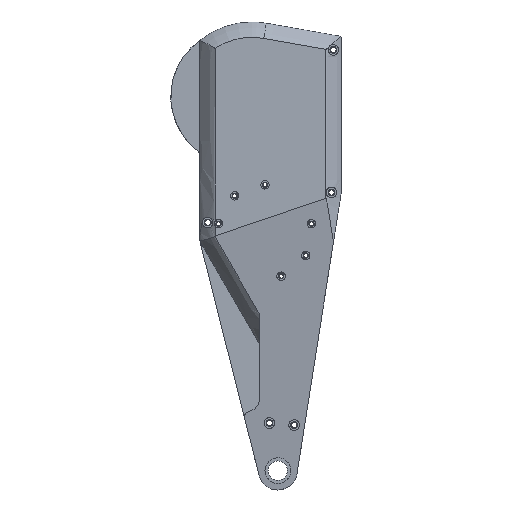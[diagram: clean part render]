
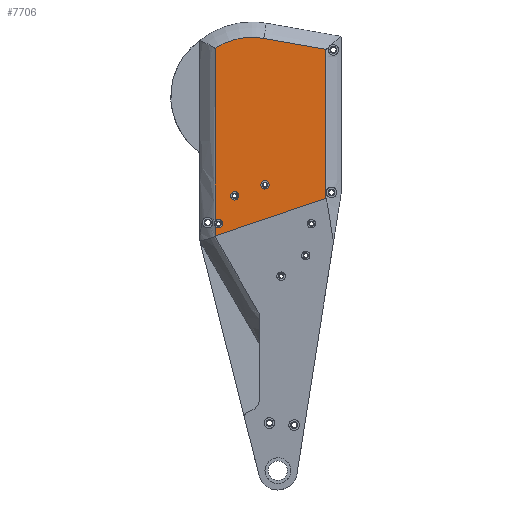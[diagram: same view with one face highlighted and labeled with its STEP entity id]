
A CAD part, left-side view. The second image highlights one B-rep face of the part: STEP entity #7706.
In plain terms, the highlighted planar face has unit normal (-1, 0, 0).
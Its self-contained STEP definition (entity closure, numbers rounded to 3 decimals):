
#549=CARTESIAN_POINT('',(-178.,-50.121,
-527.022));
#551=DIRECTION('',(0.,0.,1.));
#552=VECTOR('',#551,115.554);
#553=CARTESIAN_POINT('',(-178.,-50.121,
-527.022));
#554=LINE('',#553,#552);
#657=CARTESIAN_POINT('',(-178.,35.53,-410.621));
#729=DIRECTION('',(0.,0.,-1.));
#730=VECTOR('',#729,134.07);
#731=CARTESIAN_POINT('',(-178.,35.53,-410.621));
#732=LINE('',#731,#730);
#750=CARTESIAN_POINT('',(-178.,35.53,-548.632));
#752=DIRECTION('',(0.,0.,-1.));
#753=VECTOR('',#752,7.37);
#754=CARTESIAN_POINT('',(-178.,35.53,-548.632));
#755=LINE('',#754,#753);
#768=CARTESIAN_POINT('',(-178.,32.945,-546.662));
#769=DIRECTION('',(-1.,0.,0.));
#770=DIRECTION('',(0.,0.,-1.));
#771=AXIS2_PLACEMENT_3D('',#768,#769,#770);
#773=CARTESIAN_POINT('',(-178.,32.945,-546.662));
#774=DIRECTION('',(-1.,0.,0.));
#775=DIRECTION('',(0.,0.,1.));
#776=AXIS2_PLACEMENT_3D('',#773,#774,#775);
#778=CARTESIAN_POINT('',(-178.,7.089,-454.349));
#779=DIRECTION('',(1.,0.,0.));
#780=DIRECTION('',(0.,0.545,0.838));
#781=AXIS2_PLACEMENT_3D('',#778,#779,#780);
#783=DIRECTION('',(0.,-0.985,-0.174));
#784=VECTOR('',#783,48.894);
#785=CARTESIAN_POINT('',(-178.,-1.969,
-402.978));
#786=LINE('',#785,#784);
#787=DIRECTION('',(0.,0.947,-0.321));
#788=VECTOR('',#787,90.421);
#789=CARTESIAN_POINT('',(-178.,-50.121,
-527.022));
#790=LINE('',#789,#788);
#791=CARTESIAN_POINT('',(-178.,32.945,-546.662));
#792=DIRECTION('',(-1.,0.,0.));
#793=DIRECTION('',(0.,0.795,-0.606));
#794=AXIS2_PLACEMENT_3D('',#791,#792,#793);
#796=CARTESIAN_POINT('',(-178.,-3.,-516.5));
#797=DIRECTION('',(-1.,0.,0.));
#798=DIRECTION('',(0.,0.,-1.));
#799=AXIS2_PLACEMENT_3D('',#796,#797,#798);
#801=CARTESIAN_POINT('',(-178.,-3.,-516.5));
#802=DIRECTION('',(-1.,0.,0.));
#803=DIRECTION('',(0.,0.,1.));
#804=AXIS2_PLACEMENT_3D('',#801,#802,#803);
#806=CARTESIAN_POINT('',(-178.,20.462,-525.039));
#807=DIRECTION('',(-1.,0.,0.));
#808=DIRECTION('',(0.,0.,-1.));
#809=AXIS2_PLACEMENT_3D('',#806,#807,#808);
#811=CARTESIAN_POINT('',(-178.,20.462,-525.039));
#812=DIRECTION('',(-1.,0.,0.));
#813=DIRECTION('',(0.,0.,1.));
#814=AXIS2_PLACEMENT_3D('',#811,#812,#813);
#6056=VERTEX_POINT('',#549);
#6057=CARTESIAN_POINT('',(-178.,-50.121,
-411.468));
#6058=VERTEX_POINT('',#6057);
#6073=CARTESIAN_POINT('',(-178.,-1.969,
-402.978));
#6074=VERTEX_POINT('',#6073);
#6077=VERTEX_POINT('',#657);
#6078=CARTESIAN_POINT('',(-178.,35.53,
-544.691));
#6079=VERTEX_POINT('',#6078);
#6080=VERTEX_POINT('',#750);
#6081=CARTESIAN_POINT('',(-178.,35.53,
-556.002));
#6082=VERTEX_POINT('',#6081);
#6092=CARTESIAN_POINT('',(-178.,32.945,-549.912));
#6093=CARTESIAN_POINT('',(-178.,32.945,-543.412));
#6094=VERTEX_POINT('',#6092);
#6095=VERTEX_POINT('',#6093);
#6096=CARTESIAN_POINT('',(-178.,-3.,-519.75));
#6097=CARTESIAN_POINT('',(-178.,-3.,-513.25));
#6098=VERTEX_POINT('',#6096);
#6099=VERTEX_POINT('',#6097);
#6100=CARTESIAN_POINT('',(-178.,20.462,-528.289));
#6101=CARTESIAN_POINT('',(-178.,20.462,-521.789));
#6102=VERTEX_POINT('',#6100);
#6103=VERTEX_POINT('',#6101);
#7674=CARTESIAN_POINT('',(-178.,0.,-401.5));
#7675=DIRECTION('',(1.,0.,0.));
#7676=DIRECTION('',(0.,-1.,0.));
#7677=AXIS2_PLACEMENT_3D('',#7674,#7675,#7676);
#7678=PLANE('',#7677);
#7680=ORIENTED_EDGE('',*,*,#7679,.T.);
#7682=ORIENTED_EDGE('',*,*,#7681,.T.);
#7683=ORIENTED_EDGE('',*,*,#7647,.F.);
#7684=ORIENTED_EDGE('',*,*,#7624,.T.);
#7685=ORIENTED_EDGE('',*,*,#7552,.T.);
#7686=ORIENTED_EDGE('',*,*,#7497,.F.);
#7688=ORIENTED_EDGE('',*,*,#7687,.T.);
#7689=ORIENTED_EDGE('',*,*,#7651,.F.);
#7691=ORIENTED_EDGE('',*,*,#7690,.T.);
#7692=EDGE_LOOP('',(#7680,#7682,#7683,#7684,#7685,#7686,#7688,#7689,#7691));
#7693=FACE_OUTER_BOUND('',#7692,.F.);
#7695=ORIENTED_EDGE('',*,*,#7694,.T.);
#7697=ORIENTED_EDGE('',*,*,#7696,.T.);
#7698=EDGE_LOOP('',(#7695,#7697));
#7699=FACE_BOUND('',#7698,.F.);
#7701=ORIENTED_EDGE('',*,*,#7700,.T.);
#7703=ORIENTED_EDGE('',*,*,#7702,.T.);
#7704=EDGE_LOOP('',(#7701,#7703));
#7705=FACE_BOUND('',#7704,.F.);
#7706=ADVANCED_FACE('',(#7693,#7699,#7705),#7678,.F.);
#772=CIRCLE('',#771,3.25);
#777=CIRCLE('',#776,3.25);
#782=CIRCLE('',#781,52.163);
#795=CIRCLE('',#794,3.25);
#800=CIRCLE('',#799,3.25);
#805=CIRCLE('',#804,3.25);
#810=CIRCLE('',#809,3.25);
#815=CIRCLE('',#814,3.25);
#7497=EDGE_CURVE('',#6056,#6058,#554,.T.);
#7552=EDGE_CURVE('',#6074,#6058,#786,.T.);
#7624=EDGE_CURVE('',#6077,#6074,#782,.T.);
#7647=EDGE_CURVE('',#6077,#6079,#732,.T.);
#7651=EDGE_CURVE('',#6080,#6082,#755,.T.);
#7679=EDGE_CURVE('',#6094,#6095,#772,.T.);
#7681=EDGE_CURVE('',#6095,#6079,#777,.T.);
#7687=EDGE_CURVE('',#6056,#6082,#790,.T.);
#7690=EDGE_CURVE('',#6080,#6094,#795,.T.);
#7694=EDGE_CURVE('',#6098,#6099,#800,.T.);
#7696=EDGE_CURVE('',#6099,#6098,#805,.T.);
#7700=EDGE_CURVE('',#6102,#6103,#810,.T.);
#7702=EDGE_CURVE('',#6103,#6102,#815,.T.);
